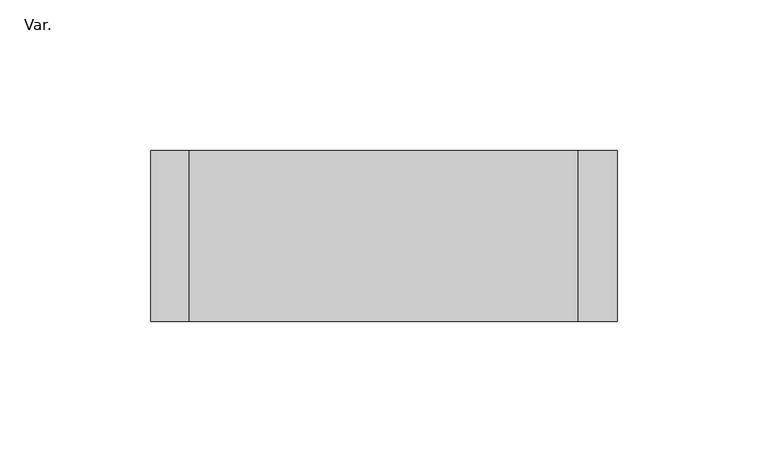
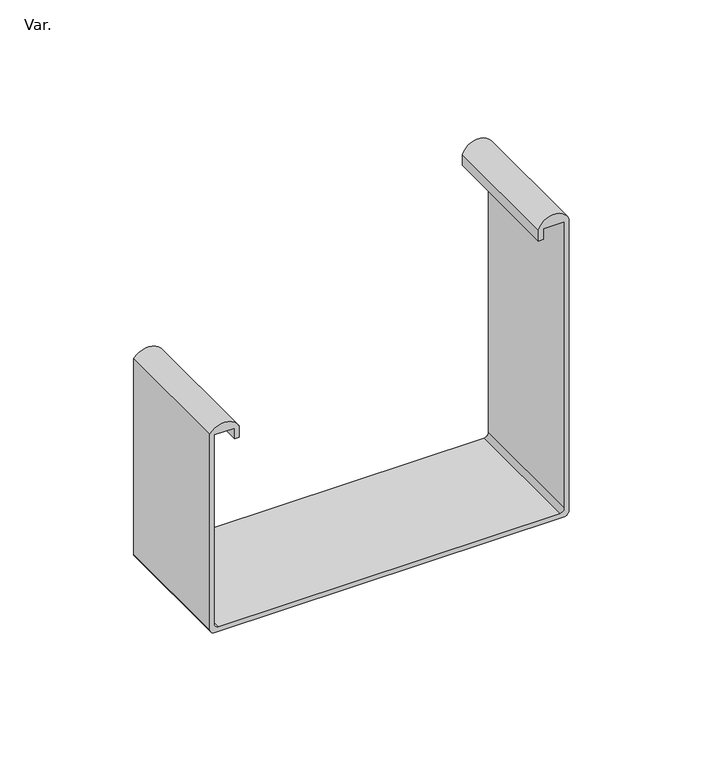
"""IFC4 building model written with IfcOpenShell, lengths in millimetres: pipe fitting geometry, AmancoWavin_Unionesdetubería_CanalesyBajantesZ_NoUsarUniónAltoCaudal : Var.."""

from ifc_helpers import new_model, si_unit, point, frame, frame_2d, origin, place, context, project, spatial, polyline, circle_curve, trimmed, segment, composite_curve, outline, extrude, source, transform, mapped, element, save


def var_9e434950(model_context):
    return source(origin(), model_context, "Body", "SweptSolid", [
        extrude(outline(composite_curve([segment(polyline([(2.1015351, -75.6), (88.3386875, -75.6), (88.3386875, -66.8596126), (83.41, -66.8596126), (83.41, -64.8391441), (88.7811864, -64.8391441)]), True, "CONTINUOUS"), segment(trimmed(circle_curve(frame_2d((84.8442116, -71.2999013)), 7.5657884), [point((88.7811864, -64.8391441))], [point((89.2345275, -77.4615797))], False, "CARTESIAN"), True, "CONTINUOUS"), segment(polyline([(89.2345275, -77.4615797), (0.0630881, -77.4615797)]), True, "CONTINUOUS"), segment(trimmed(circle_curve(frame_2d((0.0630881, -75.5215619)), 1.9400178), [point((0.0630881, -77.4615797))], [point((-1.8769298, -75.5215619))], False, "CARTESIAN"), True, "CONTINUOUS"), segment(polyline([(-1.8769298, -75.5215619), (-1.8769298, 75.5307517)]), True, "CONTINUOUS"), segment(trimmed(circle_curve(frame_2d((0.0692146, 75.5307517)), 1.9461444), [point((-1.8769298, 75.5307517))], [point((0.0692146, 77.4768961))], False, "CARTESIAN"), True, "CONTINUOUS"), segment(polyline([(0.0692146, 77.4768961), (133.3447401, 77.4768961)]), True, "CONTINUOUS"), segment(trimmed(circle_curve(frame_2d((130.531885, 71.1017512)), 6.968115), [point((133.3447401, 77.4768961))], [point((132.5716882, 64.4388817))], False, "CARTESIAN"), True, "CONTINUOUS"), segment(polyline([(132.5716882, 64.4388817), (127.65, 64.4388817), (127.65, 66.4594409), (132.6386714, 66.4594409), (132.6386714, 75.6), (2.0815351, 75.6)]), True, "CONTINUOUS"), segment(trimmed(circle_curve(frame_2d((2.0815351, 73.58)), 2.02), [point((2.0815351, 75.6))], [point((0.0615351, 73.58))], True, "CARTESIAN"), True, "CONTINUOUS"), segment(polyline([(0.0615351, 73.58), (0.0615351, -73.56)]), True, "CONTINUOUS"), segment(trimmed(circle_curve(frame_2d((2.1015351, -73.56)), 2.04), [point((0.0615351, -73.56))], [point((2.1015351, -75.6))], True, "CARTESIAN"), True, "CONTINUOUS")], self_intersect=False)), frame((0.0, 0.0, 0.0), z_axis=(0.0, 1.0, 0.0), x_axis=(0.0, 0.0, 1.0)), (0.0, 0.0, 1.0), 56.8),
    ])


if __name__ == "__main__":
    model = new_model("IFC4")
    model_context = context("Model", 3, world=origin())
    ifc_project = project(units=[si_unit("LENGTHUNIT", "METRE", prefix="MILLI")], contexts=[model_context])
    site = spatial("IfcSite", under=ifc_project)
    building = spatial("IfcBuilding", under=site)
    placement = place(None, origin())
    var_shape = var_9e434950(model_context)
    element("IfcPipeFitting", 1, ObjectType="AmancoWavin_Unionesdetubería_CanalesyBajantesZ_NoUsarUniónAltoCaudal : Var.", at=placement, inside=building, context=model_context, shape_type="MappedRepresentation", body=[
        mapped(var_shape, transform((0.0, 0.0, 0.0), x_axis=(1.0, 0.0, 0.0), y_axis=(0.0, 1.0, 0.0), z_axis=(0.0, 0.0, 1.0))),
    ])
    save(model, "model.ifc")
